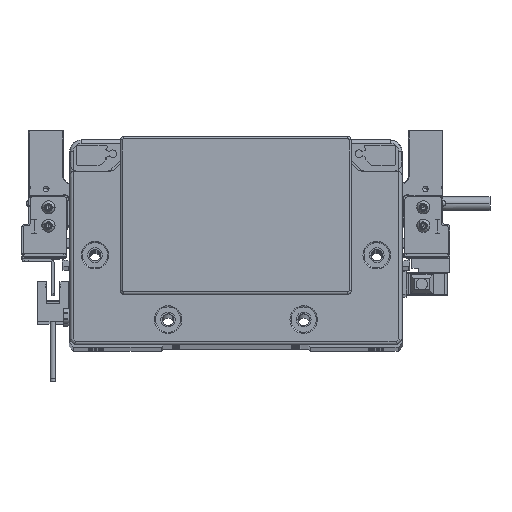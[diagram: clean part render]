
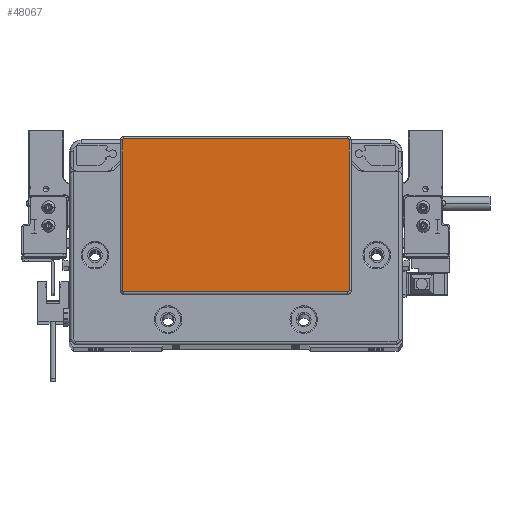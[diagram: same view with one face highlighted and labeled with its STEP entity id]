
A CAD part, top view. The second image highlights one B-rep face of the part: STEP entity #48067.
In plain terms, the highlighted planar face has unit normal (0, 0, 1) as drawn and (0, 0, -1) by its records, which use the part's own axes.
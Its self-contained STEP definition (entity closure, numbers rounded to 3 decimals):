
#507 = CARTESIAN_POINT ( 'NONE',  ( 48.75, 44.3, -2. ) ) ;
#566 = DIRECTION ( 'NONE',  ( 0., 0., -1. ) ) ;
#1804 = LINE ( 'NONE', #15634, #73938 ) ;
#2173 = EDGE_CURVE ( 'NONE', #53033, #63498, #75355, .T. ) ;
#3373 = VERTEX_POINT ( 'NONE', #15354 ) ;
#5925 = CARTESIAN_POINT ( 'NONE',  ( 48.75, -22.3, -2. ) ) ;
#6517 = CARTESIAN_POINT ( 'NONE',  ( 49.25, -21.8, -2. ) ) ;
#6612 = CARTESIAN_POINT ( 'NONE',  ( 48.75, -21.8, -2. ) ) ;
#6856 = EDGE_LOOP ( 'NONE', ( #23147, #21491, #70251, #36554, #10246, #84573, #66548, #65764 ) ) ;
#6909 = AXIS2_PLACEMENT_3D ( 'NONE', #14182, #43224, #13286 ) ;
#10246 = ORIENTED_EDGE ( 'NONE', *, *, #33738, .T. ) ;
#10673 = VERTEX_POINT ( 'NONE', #21026 ) ;
#11355 = AXIS2_PLACEMENT_3D ( 'NONE', #6612, #566, #56833 ) ;
#13286 = DIRECTION ( 'NONE',  ( -1., 0., 0. ) ) ;
#14120 = CARTESIAN_POINT ( 'NONE',  ( -48.75, -21.8, -2. ) ) ;
#14182 = CARTESIAN_POINT ( 'NONE',  ( 0., 0., -2. ) ) ;
#14417 = CARTESIAN_POINT ( 'NONE',  ( 48.75, 43.8, -2. ) ) ;
#15354 = CARTESIAN_POINT ( 'NONE',  ( 49.25, 43.8, -2. ) ) ;
#15634 = CARTESIAN_POINT ( 'NONE',  ( -49.25, 43.8, -2. ) ) ;
#17776 = AXIS2_PLACEMENT_3D ( 'NONE', #26845, #35583, #62801 ) ;
#21026 = CARTESIAN_POINT ( 'NONE',  ( -48.75, 44.3, -2. ) ) ;
#21483 = DIRECTION ( 'NONE',  ( -1., 0., 0. ) ) ;
#21491 = ORIENTED_EDGE ( 'NONE', *, *, #48763, .T. ) ;
#21786 = DIRECTION ( 'NONE',  ( 0., 0., -1. ) ) ;
#23147 = ORIENTED_EDGE ( 'NONE', *, *, #49177, .T. ) ;
#26458 = DIRECTION ( 'NONE',  ( -1., 0., 0. ) ) ;
#26845 = CARTESIAN_POINT ( 'NONE',  ( -48.75, 43.8, -2. ) ) ;
#27708 = LINE ( 'NONE', #6517, #71596 ) ;
#27787 = AXIS2_PLACEMENT_3D ( 'NONE', #14120, #42249, #21483 ) ;
#31028 = EDGE_CURVE ( 'NONE', #57767, #10673, #56103, .T. ) ;
#33738 = EDGE_CURVE ( 'NONE', #90087, #57767, #1804, .T. ) ;
#35583 = DIRECTION ( 'NONE',  ( 0., 0., -1. ) ) ;
#36554 = ORIENTED_EDGE ( 'NONE', *, *, #62606, .T. ) ;
#39569 = CIRCLE ( 'NONE', #27787, 0.5 ) ;
#42249 = DIRECTION ( 'NONE',  ( 0., 0., -1. ) ) ;
#43224 = DIRECTION ( 'NONE',  ( 0., 0., -1. ) ) ;
#43322 = DIRECTION ( 'NONE',  ( 0., 1., 0. ) ) ;
#44068 = EDGE_CURVE ( 'NONE', #10673, #60072, #75390, .T. ) ;
#48067 = ADVANCED_FACE ( 'NONE', ( #49263 ), #77389, .T. ) ;
#48763 = EDGE_CURVE ( 'NONE', #57410, #53033, #84998, .T. ) ;
#49177 = EDGE_CURVE ( 'NONE', #3373, #57410, #27708, .T. ) ;
#49263 = FACE_OUTER_BOUND ( 'NONE', #6856, .T. ) ;
#51289 = DIRECTION ( 'NONE',  ( -1., 0., 0. ) ) ;
#53033 = VERTEX_POINT ( 'NONE', #5925 ) ;
#53617 = CARTESIAN_POINT ( 'NONE',  ( 49.25, -21.8, -2. ) ) ;
#53678 = CARTESIAN_POINT ( 'NONE',  ( -48.75, -22.3, -2. ) ) ;
#55832 = DIRECTION ( 'NONE',  ( 0., -1., 0. ) ) ;
#56103 = CIRCLE ( 'NONE', #17776, 0.5 ) ;
#56833 = DIRECTION ( 'NONE',  ( -1., 0., 0. ) ) ;
#57226 = CARTESIAN_POINT ( 'NONE',  ( -48.75, -22.3, -2. ) ) ;
#57410 = VERTEX_POINT ( 'NONE', #53617 ) ;
#57767 = VERTEX_POINT ( 'NONE', #75532 ) ;
#60072 = VERTEX_POINT ( 'NONE', #72955 ) ;
#60517 = CIRCLE ( 'NONE', #89988, 0.5 ) ;
#62606 = EDGE_CURVE ( 'NONE', #63498, #90087, #39569, .T. ) ;
#62801 = DIRECTION ( 'NONE',  ( -1., 0., 0. ) ) ;
#63498 = VERTEX_POINT ( 'NONE', #57226 ) ;
#63707 = VECTOR ( 'NONE', #70623, 1000. ) ;
#65764 = ORIENTED_EDGE ( 'NONE', *, *, #78241, .T. ) ;
#66548 = ORIENTED_EDGE ( 'NONE', *, *, #44068, .T. ) ;
#68641 = CARTESIAN_POINT ( 'NONE',  ( -49.25, -21.8, -2. ) ) ;
#70251 = ORIENTED_EDGE ( 'NONE', *, *, #2173, .T. ) ;
#70623 = DIRECTION ( 'NONE',  ( 1., 0., 0. ) ) ;
#71596 = VECTOR ( 'NONE', #55832, 1000. ) ;
#72955 = CARTESIAN_POINT ( 'NONE',  ( 48.75, 44.3, -2. ) ) ;
#73938 = VECTOR ( 'NONE', #43322, 1000. ) ;
#75355 = LINE ( 'NONE', #53678, #86813 ) ;
#75390 = LINE ( 'NONE', #507, #63707 ) ;
#75532 = CARTESIAN_POINT ( 'NONE',  ( -49.25, 43.8, -2. ) ) ;
#77389 = PLANE ( 'NONE',  #6909 ) ;
#78241 = EDGE_CURVE ( 'NONE', #60072, #3373, #60517, .T. ) ;
#84573 = ORIENTED_EDGE ( 'NONE', *, *, #31028, .T. ) ;
#84998 = CIRCLE ( 'NONE', #11355, 0.5 ) ;
#86813 = VECTOR ( 'NONE', #26458, 1000. ) ;
#89988 = AXIS2_PLACEMENT_3D ( 'NONE', #14417, #21786, #51289 ) ;
#90087 = VERTEX_POINT ( 'NONE', #68641 ) ;
